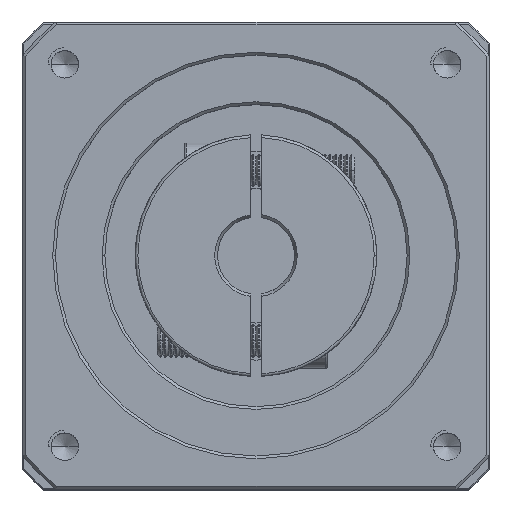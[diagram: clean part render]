
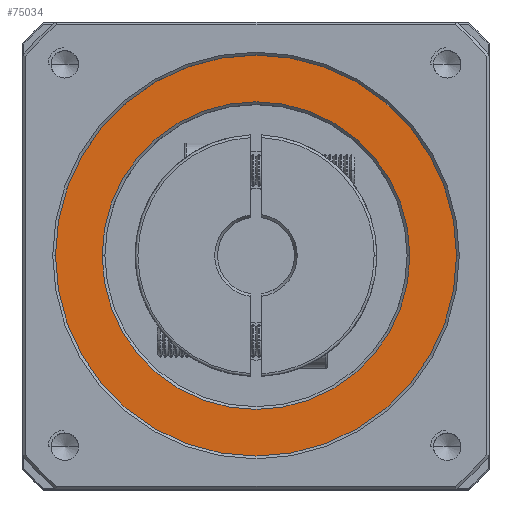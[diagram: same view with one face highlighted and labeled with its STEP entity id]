
A CAD part, top view. The second image highlights one B-rep face of the part: STEP entity #75034.
In plain terms, the highlighted planar face has unit normal (0, 0, 1).
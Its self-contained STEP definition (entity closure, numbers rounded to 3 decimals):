
#25 = CARTESIAN_POINT ( 'NONE',  ( 45.088, 7.351, 102.5 ) ) ;
#2472 = FACE_BOUND ( 'NONE', #80790, .T. ) ;
#4696 = CARTESIAN_POINT ( 'NONE',  ( 81.588, 7.351, 102.5 ) ) ;
#5240 = DIRECTION ( 'NONE',  ( 0., 0., 1. ) ) ;
#5641 = CARTESIAN_POINT ( 'NONE',  ( 45.088, 7.351, 102.5 ) ) ;
#8854 = DIRECTION ( 'NONE',  ( 1., 0., 0. ) ) ;
#11515 = PLANE ( 'NONE',  #96560 ) ;
#12436 = VERTEX_POINT ( 'NONE', #33273 ) ;
#12677 = EDGE_CURVE ( 'NONE', #77357, #70730, #85506, .T. ) ;
#14415 = DIRECTION ( 'NONE',  ( 1., 0., 0. ) ) ;
#19211 = AXIS2_PLACEMENT_3D ( 'NONE', #43967, #104479, #52659 ) ;
#27831 = CIRCLE ( 'NONE', #19211, 28. ) ;
#29112 = ORIENTED_EDGE ( 'NONE', *, *, #12677, .T. ) ;
#33247 = ORIENTED_EDGE ( 'NONE', *, *, #86195, .T. ) ;
#33273 = CARTESIAN_POINT ( 'NONE',  ( 17.088, 7.351, 102.5 ) ) ;
#34609 = EDGE_CURVE ( 'NONE', #12436, #73959, #27831, .T. ) ;
#35320 = ORIENTED_EDGE ( 'NONE', *, *, #109872, .T. ) ;
#37307 = ORIENTED_EDGE ( 'NONE', *, *, #34609, .T. ) ;
#43967 = CARTESIAN_POINT ( 'NONE',  ( 45.088, 7.351, 102.5 ) ) ;
#45319 = AXIS2_PLACEMENT_3D ( 'NONE', #25, #61093, #8854 ) ;
#47082 = DIRECTION ( 'NONE',  ( 0., 0., 1. ) ) ;
#52659 = DIRECTION ( 'NONE',  ( 1., 0., 0. ) ) ;
#55779 = CIRCLE ( 'NONE', #45319, 28. ) ;
#57499 = CARTESIAN_POINT ( 'NONE',  ( 45.088, 7.351, 102.5 ) ) ;
#61093 = DIRECTION ( 'NONE',  ( 0., 0., -1. ) ) ;
#64766 = AXIS2_PLACEMENT_3D ( 'NONE', #5641, #66628, #14415 ) ;
#66220 = DIRECTION ( 'NONE',  ( 1., 0., 0. ) ) ;
#66628 = DIRECTION ( 'NONE',  ( 0., 0., 1. ) ) ;
#70730 = VERTEX_POINT ( 'NONE', #106157 ) ;
#72182 = AXIS2_PLACEMENT_3D ( 'NONE', #57499, #5240, #66220 ) ;
#73959 = VERTEX_POINT ( 'NONE', #85722 ) ;
#75034 = ADVANCED_FACE ( 'NONE', ( #94974, #2472 ), #11515, .T. ) ;
#77357 = VERTEX_POINT ( 'NONE', #4696 ) ;
#80790 = EDGE_LOOP ( 'NONE', ( #35320, #37307 ) ) ;
#85506 = CIRCLE ( 'NONE', #64766, 36.5 ) ;
#85722 = CARTESIAN_POINT ( 'NONE',  ( 73.088, 7.351, 102.5 ) ) ;
#86195 = EDGE_CURVE ( 'NONE', #70730, #77357, #97227, .T. ) ;
#94974 = FACE_OUTER_BOUND ( 'NONE', #104738, .T. ) ;
#96560 = AXIS2_PLACEMENT_3D ( 'NONE', #98892, #47082, #107665 ) ;
#97227 = CIRCLE ( 'NONE', #72182, 36.5 ) ;
#98892 = CARTESIAN_POINT ( 'NONE',  ( 45.088, 7.351, 102.5 ) ) ;
#104479 = DIRECTION ( 'NONE',  ( 0., 0., -1. ) ) ;
#104738 = EDGE_LOOP ( 'NONE', ( #29112, #33247 ) ) ;
#106157 = CARTESIAN_POINT ( 'NONE',  ( 8.588, 7.351, 102.5 ) ) ;
#107665 = DIRECTION ( 'NONE',  ( 1., 0., 0. ) ) ;
#109872 = EDGE_CURVE ( 'NONE', #73959, #12436, #55779, .T. ) ;
